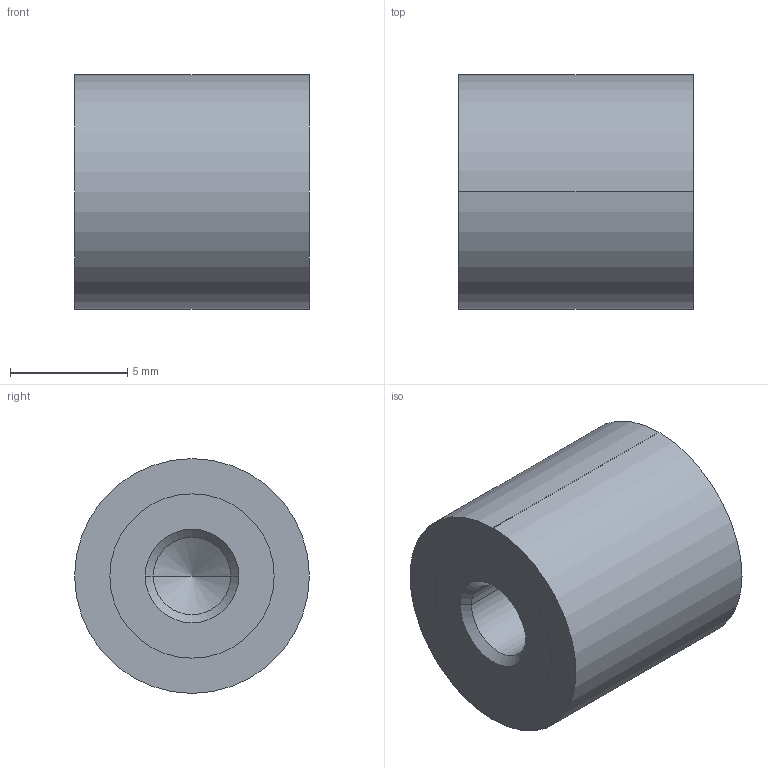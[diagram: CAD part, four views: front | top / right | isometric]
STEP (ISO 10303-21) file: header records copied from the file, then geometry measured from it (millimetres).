
FILE_DESCRIPTION (( 'STEP AP214' ), '1' );
FILE_NAME ('451-10-10-M4-EE-40.step', '2020-03-05T09:08:43', ( '' ), ( '' ), 'SwSTEP 2.0', 'SolidWorks 2019', '' );
FILE_SCHEMA (( 'AUTOMOTIVE_DESIGN' ));
Length unit declared in the file: millimetre
Products named in the file (1): 451-10-10-M4-EE-40
Bounding box: 10 x 10 x 10 mm (x, y, z)
Volume: 709.4 mm3; surface area: 553.4 mm2
Topology: 1 solids, 1 shells, 22 faces, 46 edges, 26 vertices
Faces by surface type: cylinder 10, cone 8, plane 4
Entity records: 684 total; most frequent: DIRECTION 112, CARTESIAN_POINT 91, ORIENTED_EDGE 84, AXIS2_PLACEMENT_3D 47, EDGE_CURVE 42, VERTEX_POINT 26, EDGE_LOOP 26, CIRCLE 24
